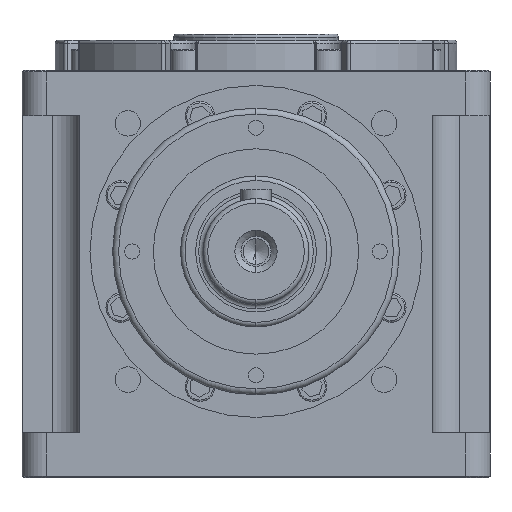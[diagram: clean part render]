
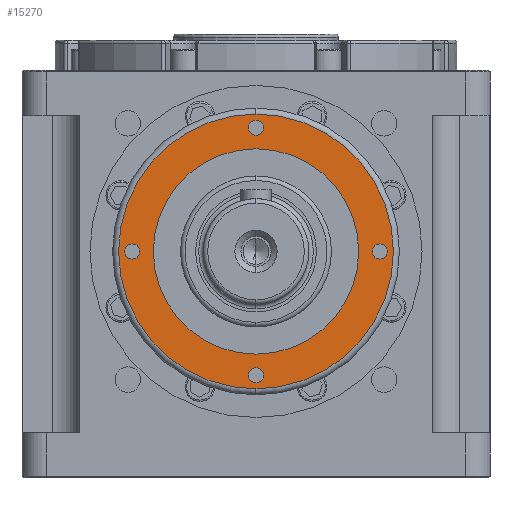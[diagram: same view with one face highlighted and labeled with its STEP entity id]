
A CAD part, front view. The second image highlights one B-rep face of the part: STEP entity #15270.
In plain terms, the highlighted planar face has unit normal (0, -1, 0).
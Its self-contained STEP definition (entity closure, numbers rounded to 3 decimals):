
#61 = CARTESIAN_POINT ( 'NONE',  ( 0., -46.5, -34. ) ) ;
#420 = EDGE_CURVE ( 'NONE', #13296, #11923, #12737, .T. ) ;
#449 = CARTESIAN_POINT ( 'NONE',  ( 0., -46.5, -38.5 ) ) ;
#507 = CIRCLE ( 'NONE', #9017, 45.5 ) ;
#520 = CARTESIAN_POINT ( 'NONE',  ( 41., -46.5, 0. ) ) ;
#562 = CARTESIAN_POINT ( 'NONE',  ( 0., -46.5, 0. ) ) ;
#649 = VERTEX_POINT ( 'NONE', #6626 ) ;
#714 = VERTEX_POINT ( 'NONE', #7719 ) ;
#791 = DIRECTION ( 'NONE',  ( 0., -1., 0. ) ) ;
#965 = VERTEX_POINT ( 'NONE', #6070 ) ;
#1028 = DIRECTION ( 'NONE',  ( 0., 0., -1. ) ) ;
#1077 = CARTESIAN_POINT ( 'NONE',  ( 0., -46.5, 41. ) ) ;
#1138 = DIRECTION ( 'NONE',  ( 0., -1., 0. ) ) ;
#1182 = VERTEX_POINT ( 'NONE', #8797 ) ;
#1398 = EDGE_CURVE ( 'NONE', #7052, #965, #10554, .T. ) ;
#1549 = FACE_BOUND ( 'NONE', #3837, .T. ) ;
#1626 = DIRECTION ( 'NONE',  ( 0., 0., -1. ) ) ;
#1739 = EDGE_CURVE ( 'NONE', #714, #9200, #10749, .T. ) ;
#2124 = CARTESIAN_POINT ( 'NONE',  ( 0., -46.5, 43.5 ) ) ;
#2159 = EDGE_CURVE ( 'NONE', #1182, #4184, #13750, .T. ) ;
#2228 = CIRCLE ( 'NONE', #8989, 2.5 ) ;
#2357 = CARTESIAN_POINT ( 'NONE',  ( -41., -46.5, 0. ) ) ;
#2360 = CARTESIAN_POINT ( 'NONE',  ( 41., -46.5, -2.5 ) ) ;
#2926 = ORIENTED_EDGE ( 'NONE', *, *, #8593, .F. ) ;
#2944 = CIRCLE ( 'NONE', #5705, 2.5 ) ;
#3129 = CIRCLE ( 'NONE', #6379, 2.5 ) ;
#3198 = ORIENTED_EDGE ( 'NONE', *, *, #3205, .F. ) ;
#3205 = EDGE_CURVE ( 'NONE', #11119, #649, #3772, .T. ) ;
#3215 = DIRECTION ( 'NONE',  ( 0., -1., 0. ) ) ;
#3347 = AXIS2_PLACEMENT_3D ( 'NONE', #15454, #11760, #1028 ) ;
#3571 = DIRECTION ( 'NONE',  ( 0., 0., -1. ) ) ;
#3644 = ORIENTED_EDGE ( 'NONE', *, *, #5644, .F. ) ;
#3772 = CIRCLE ( 'NONE', #12536, 2.5 ) ;
#3837 = EDGE_LOOP ( 'NONE', ( #3198, #7816 ) ) ;
#3900 = AXIS2_PLACEMENT_3D ( 'NONE', #9952, #6342, #1626 ) ;
#3907 = FACE_BOUND ( 'NONE', #13388, .T. ) ;
#4075 = EDGE_CURVE ( 'NONE', #4184, #1182, #507, .T. ) ;
#4100 = CIRCLE ( 'NONE', #3347, 34. ) ;
#4184 = VERTEX_POINT ( 'NONE', #5494 ) ;
#4666 = DIRECTION ( 'NONE',  ( 0., 0., -1. ) ) ;
#4744 = DIRECTION ( 'NONE',  ( 0., 0., -1. ) ) ;
#5232 = EDGE_CURVE ( 'NONE', #9200, #714, #10872, .T. ) ;
#5329 = ORIENTED_EDGE ( 'NONE', *, *, #420, .F. ) ;
#5494 = CARTESIAN_POINT ( 'NONE',  ( 0., -46.5, 45.5 ) ) ;
#5560 = VERTEX_POINT ( 'NONE', #5863 ) ;
#5644 = EDGE_CURVE ( 'NONE', #5936, #5560, #2944, .T. ) ;
#5705 = AXIS2_PLACEMENT_3D ( 'NONE', #1077, #9308, #14088 ) ;
#5863 = CARTESIAN_POINT ( 'NONE',  ( 0., -46.5, 38.5 ) ) ;
#5914 = EDGE_LOOP ( 'NONE', ( #13163, #3644 ) ) ;
#5936 = VERTEX_POINT ( 'NONE', #2124 ) ;
#6070 = CARTESIAN_POINT ( 'NONE',  ( -41., -46.5, 2.5 ) ) ;
#6208 = ORIENTED_EDGE ( 'NONE', *, *, #5232, .F. ) ;
#6250 = AXIS2_PLACEMENT_3D ( 'NONE', #12506, #1138, #7102 ) ;
#6342 = DIRECTION ( 'NONE',  ( 0., -1., 0. ) ) ;
#6379 = AXIS2_PLACEMENT_3D ( 'NONE', #8038, #15410, #4666 ) ;
#6526 = AXIS2_PLACEMENT_3D ( 'NONE', #13999, #11803, #12916 ) ;
#6626 = CARTESIAN_POINT ( 'NONE',  ( 41., -46.5, 2.5 ) ) ;
#6628 = CARTESIAN_POINT ( 'NONE',  ( 0., -46.5, 34. ) ) ;
#6670 = ORIENTED_EDGE ( 'NONE', *, *, #1398, .F. ) ;
#6711 = EDGE_CURVE ( 'NONE', #649, #11119, #2228, .T. ) ;
#7052 = VERTEX_POINT ( 'NONE', #11700 ) ;
#7102 = DIRECTION ( 'NONE',  ( 0., 0., -1. ) ) ;
#7192 = CARTESIAN_POINT ( 'NONE',  ( 0., -46.5, -41. ) ) ;
#7272 = DIRECTION ( 'NONE',  ( 0., -1., 0. ) ) ;
#7310 = DIRECTION ( 'NONE',  ( 0., -1., 0. ) ) ;
#7700 = CARTESIAN_POINT ( 'NONE',  ( 0., -46.5, -41. ) ) ;
#7719 = CARTESIAN_POINT ( 'NONE',  ( 0., -46.5, -43.5 ) ) ;
#7816 = ORIENTED_EDGE ( 'NONE', *, *, #6711, .F. ) ;
#8038 = CARTESIAN_POINT ( 'NONE',  ( -41., -46.5, 0. ) ) ;
#8593 = EDGE_CURVE ( 'NONE', #11923, #13296, #4100, .T. ) ;
#8797 = CARTESIAN_POINT ( 'NONE',  ( 0., -46.5, -45.5 ) ) ;
#8989 = AXIS2_PLACEMENT_3D ( 'NONE', #15417, #15177, #4744 ) ;
#9017 = AXIS2_PLACEMENT_3D ( 'NONE', #562, #791, #12633 ) ;
#9200 = VERTEX_POINT ( 'NONE', #449 ) ;
#9308 = DIRECTION ( 'NONE',  ( 0., -1., 0. ) ) ;
#9407 = EDGE_CURVE ( 'NONE', #965, #7052, #3129, .T. ) ;
#9707 = EDGE_LOOP ( 'NONE', ( #15412, #11957 ) ) ;
#9777 = DIRECTION ( 'NONE',  ( 0., -1., 0. ) ) ;
#9854 = EDGE_LOOP ( 'NONE', ( #6670, #10415 ) ) ;
#9952 = CARTESIAN_POINT ( 'NONE',  ( 0., -46.5, 0. ) ) ;
#10415 = ORIENTED_EDGE ( 'NONE', *, *, #9407, .F. ) ;
#10429 = CARTESIAN_POINT ( 'NONE',  ( 0., -46.5, 41. ) ) ;
#10554 = CIRCLE ( 'NONE', #12056, 2.5 ) ;
#10749 = CIRCLE ( 'NONE', #15247, 2.5 ) ;
#10872 = CIRCLE ( 'NONE', #12873, 2.5 ) ;
#11119 = VERTEX_POINT ( 'NONE', #2360 ) ;
#11121 = FACE_BOUND ( 'NONE', #9854, .T. ) ;
#11429 = FACE_BOUND ( 'NONE', #11649, .T. ) ;
#11607 = EDGE_CURVE ( 'NONE', #5560, #5936, #12425, .T. ) ;
#11649 = EDGE_LOOP ( 'NONE', ( #2926, #5329 ) ) ;
#11700 = CARTESIAN_POINT ( 'NONE',  ( -41., -46.5, -2.5 ) ) ;
#11760 = DIRECTION ( 'NONE',  ( 0., -1., 0. ) ) ;
#11803 = DIRECTION ( 'NONE',  ( 0., -1., 0. ) ) ;
#11923 = VERTEX_POINT ( 'NONE', #61 ) ;
#11957 = ORIENTED_EDGE ( 'NONE', *, *, #4075, .T. ) ;
#12056 = AXIS2_PLACEMENT_3D ( 'NONE', #2357, #7310, #14511 ) ;
#12376 = PLANE ( 'NONE',  #3900 ) ;
#12425 = CIRCLE ( 'NONE', #14434, 2.5 ) ;
#12506 = CARTESIAN_POINT ( 'NONE',  ( 0., -46.5, 0. ) ) ;
#12536 = AXIS2_PLACEMENT_3D ( 'NONE', #520, #9777, #14555 ) ;
#12611 = FACE_OUTER_BOUND ( 'NONE', #9707, .T. ) ;
#12633 = DIRECTION ( 'NONE',  ( 0., 0., -1. ) ) ;
#12737 = CIRCLE ( 'NONE', #6526, 34. ) ;
#12873 = AXIS2_PLACEMENT_3D ( 'NONE', #7700, #3215, #14833 ) ;
#12916 = DIRECTION ( 'NONE',  ( 0., 0., -1. ) ) ;
#13017 = DIRECTION ( 'NONE',  ( 0., -1., 0. ) ) ;
#13163 = ORIENTED_EDGE ( 'NONE', *, *, #11607, .F. ) ;
#13296 = VERTEX_POINT ( 'NONE', #6628 ) ;
#13300 = ORIENTED_EDGE ( 'NONE', *, *, #1739, .F. ) ;
#13388 = EDGE_LOOP ( 'NONE', ( #13300, #6208 ) ) ;
#13750 = CIRCLE ( 'NONE', #6250, 45.5 ) ;
#13999 = CARTESIAN_POINT ( 'NONE',  ( 0., -46.5, 0. ) ) ;
#14088 = DIRECTION ( 'NONE',  ( 0., 0., -1. ) ) ;
#14434 = AXIS2_PLACEMENT_3D ( 'NONE', #10429, #13017, #15208 ) ;
#14511 = DIRECTION ( 'NONE',  ( 0., 0., -1. ) ) ;
#14555 = DIRECTION ( 'NONE',  ( 0., 0., -1. ) ) ;
#14730 = FACE_BOUND ( 'NONE', #5914, .T. ) ;
#14833 = DIRECTION ( 'NONE',  ( 0., 0., -1. ) ) ;
#15177 = DIRECTION ( 'NONE',  ( 0., -1., 0. ) ) ;
#15208 = DIRECTION ( 'NONE',  ( 0., 0., -1. ) ) ;
#15247 = AXIS2_PLACEMENT_3D ( 'NONE', #7192, #7272, #3571 ) ;
#15270 = ADVANCED_FACE ( 'NONE', ( #1549, #3907, #11121, #14730, #12611, #11429 ), #12376, .T. ) ;
#15410 = DIRECTION ( 'NONE',  ( 0., -1., 0. ) ) ;
#15412 = ORIENTED_EDGE ( 'NONE', *, *, #2159, .T. ) ;
#15417 = CARTESIAN_POINT ( 'NONE',  ( 41., -46.5, 0. ) ) ;
#15454 = CARTESIAN_POINT ( 'NONE',  ( 0., -46.5, 0. ) ) ;
